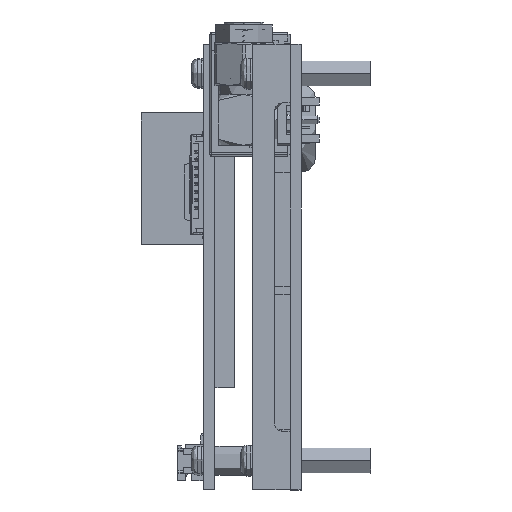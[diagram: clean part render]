
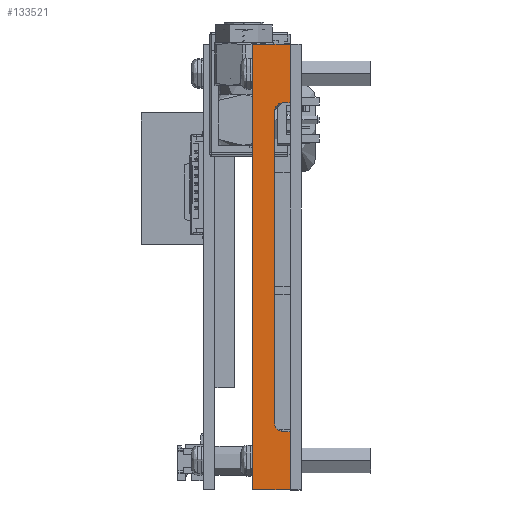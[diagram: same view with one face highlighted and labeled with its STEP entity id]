
A CAD part, left-side view. The second image highlights one B-rep face of the part: STEP entity #133521.
In plain terms, the highlighted planar face has unit normal (-1, 0, 0).
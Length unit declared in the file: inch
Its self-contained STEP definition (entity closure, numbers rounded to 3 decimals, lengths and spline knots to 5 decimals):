
#2664 = DIRECTION ( 'NONE',  ( 0., 0., 1. ) ) ;
#3056 = EDGE_CURVE ( 'NONE', #133201, #110295, #105961, .T. ) ;
#3984 = ORIENTED_EDGE ( 'NONE', *, *, #113175, .F. ) ;
#8618 = CARTESIAN_POINT ( 'NONE',  ( -2.33661, 0.11811, -1.20079 ) ) ;
#13178 = CARTESIAN_POINT ( 'NONE',  ( -2.33661, 0.16024, 0.8437 ) ) ;
#13296 = VERTEX_POINT ( 'NONE', #100571 ) ;
#15002 = DIRECTION ( 'NONE',  ( 0., 0., 1. ) ) ;
#15896 = VERTEX_POINT ( 'NONE', #74319 ) ;
#17397 = CARTESIAN_POINT ( 'NONE',  ( -2.33661, 0.20276, -0.88583 ) ) ;
#18136 = EDGE_CURVE ( 'NONE', #120786, #29627, #139014, .T. ) ;
#18192 = LINE ( 'NONE', #29853, #77675 ) ;
#18610 = CARTESIAN_POINT ( 'NONE',  ( -2.33661, 0.11811, -0.8437 ) ) ;
#21378 = ORIENTED_EDGE ( 'NONE', *, *, #130014, .F. ) ;
#21597 = EDGE_CURVE ( 'NONE', #15896, #105924, #23652, .T. ) ;
#23652 = LINE ( 'NONE', #74268, #114843 ) ;
#25127 = DIRECTION ( 'NONE',  ( 0., 0., -1. ) ) ;
#25217 = VERTEX_POINT ( 'NONE', #58898 ) ;
#25591 = CARTESIAN_POINT ( 'NONE',  ( -2.33661, 0.20276, -1.20079 ) ) ;
#26715 = CARTESIAN_POINT ( 'NONE',  ( -2.33661, 0.11811, 1.20079 ) ) ;
#26779 = LINE ( 'NONE', #150572, #149744 ) ;
#28844 = CIRCLE ( 'NONE', #38885, 0.04213 ) ;
#29627 = VERTEX_POINT ( 'NONE', #17397 ) ;
#29853 = CARTESIAN_POINT ( 'NONE',  ( -2.33661, 0.11811, -1.20079 ) ) ;
#30977 = DIRECTION ( 'NONE',  ( 0., 0., 1. ) ) ;
#31546 = DIRECTION ( 'NONE',  ( 1., 0., 0. ) ) ;
#31617 = AXIS2_PLACEMENT_3D ( 'NONE', #79890, #31546, #103807 ) ;
#32386 = ORIENTED_EDGE ( 'NONE', *, *, #21597, .F. ) ;
#35223 = CARTESIAN_POINT ( 'NONE',  ( -2.33661, 0.11811, -0.88583 ) ) ;
#36500 = ORIENTED_EDGE ( 'NONE', *, *, #3056, .F. ) ;
#36594 = LINE ( 'NONE', #8618, #99843 ) ;
#38885 = AXIS2_PLACEMENT_3D ( 'NONE', #13178, #96355, #25127 ) ;
#40166 = EDGE_CURVE ( 'NONE', #25217, #72425, #26779, .T. ) ;
#41742 = DIRECTION ( 'NONE',  ( 0., -1., 0. ) ) ;
#50186 = VECTOR ( 'NONE', #74548, 39.37008 ) ;
#50611 = FACE_OUTER_BOUND ( 'NONE', #92816, .T. ) ;
#56823 = AXIS2_PLACEMENT_3D ( 'NONE', #57804, #121744, #2664 ) ;
#57804 = CARTESIAN_POINT ( 'NONE',  ( -2.33661, 0.16024, -0.8437 ) ) ;
#58898 = CARTESIAN_POINT ( 'NONE',  ( -2.33661, 0., 1.20079 ) ) ;
#67185 = DIRECTION ( 'NONE',  ( 0., 0., -1. ) ) ;
#71999 = CARTESIAN_POINT ( 'NONE',  ( -2.33661, 0.11811, 0.8437 ) ) ;
#72425 = VERTEX_POINT ( 'NONE', #123165 ) ;
#74268 = CARTESIAN_POINT ( 'NONE',  ( -2.33661, 0.20276, -1.20079 ) ) ;
#74319 = CARTESIAN_POINT ( 'NONE',  ( -2.33661, 0.20276, 0.88583 ) ) ;
#74548 = DIRECTION ( 'NONE',  ( 0., -1., 0. ) ) ;
#77675 = VECTOR ( 'NONE', #41742, 39.37008 ) ;
#78096 = LINE ( 'NONE', #26715, #50186 ) ;
#79800 = DIRECTION ( 'NONE',  ( 0., 0., 1. ) ) ;
#79890 = CARTESIAN_POINT ( 'NONE',  ( -2.33661, 0.11811, -1.20079 ) ) ;
#84175 = CARTESIAN_POINT ( 'NONE',  ( -2.33661, 0.16024, -0.88583 ) ) ;
#84747 = EDGE_CURVE ( 'NONE', #145788, #13296, #28844, .T. ) ;
#84895 = ORIENTED_EDGE ( 'NONE', *, *, #18136, .F. ) ;
#85584 = EDGE_CURVE ( 'NONE', #13296, #15896, #93921, .T. ) ;
#86436 = VECTOR ( 'NONE', #124726, 39.37008 ) ;
#87913 = EDGE_CURVE ( 'NONE', #110295, #145788, #36594, .T. ) ;
#90240 = CARTESIAN_POINT ( 'NONE',  ( -2.33661, 0.20276, -1.20079 ) ) ;
#91869 = PLANE ( 'NONE',  #31617 ) ;
#92816 = EDGE_LOOP ( 'NONE', ( #121241, #3984, #32386, #153268, #140096, #153100, #36500, #21378, #84895, #101384 ) ) ;
#93921 = LINE ( 'NONE', #100771, #86436 ) ;
#95500 = CARTESIAN_POINT ( 'NONE',  ( -2.33661, 0.20276, 1.20079 ) ) ;
#96355 = DIRECTION ( 'NONE',  ( -1., 0., 0. ) ) ;
#99843 = VECTOR ( 'NONE', #79800, 39.37008 ) ;
#100571 = CARTESIAN_POINT ( 'NONE',  ( -2.33661, 0.16024, 0.88583 ) ) ;
#100771 = CARTESIAN_POINT ( 'NONE',  ( -2.33661, 0.11811, 0.88583 ) ) ;
#101384 = ORIENTED_EDGE ( 'NONE', *, *, #123738, .T. ) ;
#103807 = DIRECTION ( 'NONE',  ( 0., 0., -1. ) ) ;
#105924 = VERTEX_POINT ( 'NONE', #95500 ) ;
#105961 = CIRCLE ( 'NONE', #56823, 0.04213 ) ;
#110295 = VERTEX_POINT ( 'NONE', #18610 ) ;
#113175 = EDGE_CURVE ( 'NONE', #105924, #25217, #78096, .T. ) ;
#114843 = VECTOR ( 'NONE', #15002, 39.37008 ) ;
#118475 = DIRECTION ( 'NONE',  ( 0., -1., 0. ) ) ;
#120786 = VERTEX_POINT ( 'NONE', #25591 ) ;
#121241 = ORIENTED_EDGE ( 'NONE', *, *, #40166, .F. ) ;
#121744 = DIRECTION ( 'NONE',  ( -1., 0., 0. ) ) ;
#123165 = CARTESIAN_POINT ( 'NONE',  ( -2.33661, 0., -1.20079 ) ) ;
#123738 = EDGE_CURVE ( 'NONE', #120786, #72425, #18192, .T. ) ;
#124726 = DIRECTION ( 'NONE',  ( 0., 1., 0. ) ) ;
#130014 = EDGE_CURVE ( 'NONE', #29627, #133201, #135726, .T. ) ;
#131526 = VECTOR ( 'NONE', #30977, 39.37008 ) ;
#133201 = VERTEX_POINT ( 'NONE', #84175 ) ;
#133521 = ADVANCED_FACE ( 'NONE', ( #50611 ), #91869, .F. ) ;
#135726 = LINE ( 'NONE', #35223, #139489 ) ;
#139014 = LINE ( 'NONE', #90240, #131526 ) ;
#139489 = VECTOR ( 'NONE', #118475, 39.37008 ) ;
#140096 = ORIENTED_EDGE ( 'NONE', *, *, #84747, .F. ) ;
#145788 = VERTEX_POINT ( 'NONE', #71999 ) ;
#149744 = VECTOR ( 'NONE', #67185, 39.37008 ) ;
#150572 = CARTESIAN_POINT ( 'NONE',  ( -2.33661, 0., 0. ) ) ;
#153100 = ORIENTED_EDGE ( 'NONE', *, *, #87913, .F. ) ;
#153268 = ORIENTED_EDGE ( 'NONE', *, *, #85584, .F. ) ;
